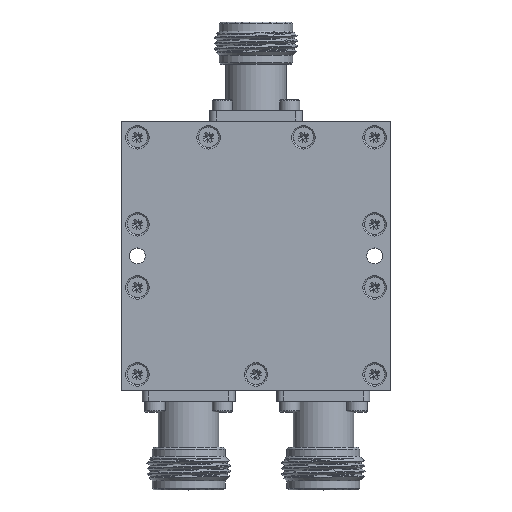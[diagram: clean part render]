
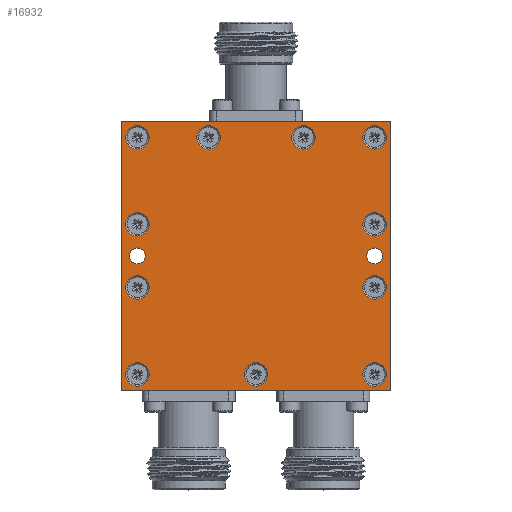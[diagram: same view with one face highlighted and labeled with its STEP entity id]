
A CAD part, top view. The second image highlights one B-rep face of the part: STEP entity #16932.
In plain terms, the highlighted planar face has unit normal (0, 0, 1).
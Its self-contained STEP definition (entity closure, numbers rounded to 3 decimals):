
#231=PLANE('',#17858);
#650=LINE('',#22159,#1800);
#653=LINE('',#22165,#1803);
#655=LINE('',#22185,#1805);
#656=LINE('',#22187,#1806);
#1800=VECTOR('',#18808,1000.);
#1803=VECTOR('',#18813,1000.);
#1805=VECTOR('',#18833,1000.);
#1806=VECTOR('',#18836,1000.);
#3957=ORIENTED_EDGE('',*,*,#6634,.F.);
#3958=ORIENTED_EDGE('',*,*,#6620,.F.);
#3959=ORIENTED_EDGE('',*,*,#6623,.F.);
#3960=ORIENTED_EDGE('',*,*,#6633,.F.);
#3961=ORIENTED_EDGE('',*,*,#6920,.T.);
#3962=ORIENTED_EDGE('',*,*,#6918,.T.);
#3963=ORIENTED_EDGE('',*,*,#6916,.T.);
#3964=ORIENTED_EDGE('',*,*,#6914,.T.);
#3965=ORIENTED_EDGE('',*,*,#6912,.T.);
#3966=ORIENTED_EDGE('',*,*,#6910,.T.);
#3967=ORIENTED_EDGE('',*,*,#6908,.T.);
#3968=ORIENTED_EDGE('',*,*,#6906,.T.);
#3969=ORIENTED_EDGE('',*,*,#6904,.T.);
#3970=ORIENTED_EDGE('',*,*,#6902,.T.);
#3971=ORIENTED_EDGE('',*,*,#6900,.T.);
#3972=ORIENTED_EDGE('',*,*,#6582,.F.);
#3973=ORIENTED_EDGE('',*,*,#6580,.F.);
#6580=EDGE_CURVE('',#8260,#8260,#9511,.T.);
#6582=EDGE_CURVE('',#8262,#8262,#9513,.T.);
#6620=EDGE_CURVE('',#8285,#8286,#650,.T.);
#6623=EDGE_CURVE('',#8287,#8285,#653,.T.);
#6633=EDGE_CURVE('',#8296,#8287,#655,.T.);
#6634=EDGE_CURVE('',#8286,#8296,#656,.T.);
#6900=EDGE_CURVE('',#8502,#8502,#9589,.T.);
#6902=EDGE_CURVE('',#8504,#8504,#9591,.T.);
#6904=EDGE_CURVE('',#8506,#8506,#9593,.T.);
#6906=EDGE_CURVE('',#8508,#8508,#9595,.T.);
#6908=EDGE_CURVE('',#8510,#8510,#9597,.T.);
#6910=EDGE_CURVE('',#8512,#8512,#9599,.T.);
#6912=EDGE_CURVE('',#8514,#8514,#9601,.T.);
#6914=EDGE_CURVE('',#8516,#8516,#9603,.T.);
#6916=EDGE_CURVE('',#8518,#8518,#9605,.T.);
#6918=EDGE_CURVE('',#8520,#8520,#9607,.T.);
#6920=EDGE_CURVE('',#8522,#8522,#9609,.T.);
#8260=VERTEX_POINT('',#22080);
#8262=VERTEX_POINT('',#22085);
#8285=VERTEX_POINT('',#22158);
#8286=VERTEX_POINT('',#22160);
#8287=VERTEX_POINT('',#22164);
#8296=VERTEX_POINT('',#22184);
#8502=VERTEX_POINT('',#23032);
#8504=VERTEX_POINT('',#23037);
#8506=VERTEX_POINT('',#23042);
#8508=VERTEX_POINT('',#23047);
#8510=VERTEX_POINT('',#23052);
#8512=VERTEX_POINT('',#23057);
#8514=VERTEX_POINT('',#23062);
#8516=VERTEX_POINT('',#23067);
#8518=VERTEX_POINT('',#23072);
#8520=VERTEX_POINT('',#23077);
#8522=VERTEX_POINT('',#23082);
#9511=CIRCLE('',#17575,1.5);
#9513=CIRCLE('',#17578,1.5);
#9589=CIRCLE('',#17827,2.2);
#9591=CIRCLE('',#17830,2.2);
#9593=CIRCLE('',#17833,2.2);
#9595=CIRCLE('',#17836,2.2);
#9597=CIRCLE('',#17839,2.2);
#9599=CIRCLE('',#17842,2.2);
#9601=CIRCLE('',#17845,2.2);
#9603=CIRCLE('',#17848,2.2);
#9605=CIRCLE('',#17851,2.2);
#9607=CIRCLE('',#17854,2.2);
#9609=CIRCLE('',#17857,2.2);
#10142=EDGE_LOOP('',(#3957,#3958,#3959,#3960));
#10143=EDGE_LOOP('',(#3961));
#10144=EDGE_LOOP('',(#3962));
#10145=EDGE_LOOP('',(#3963));
#10146=EDGE_LOOP('',(#3964));
#10147=EDGE_LOOP('',(#3965));
#10148=EDGE_LOOP('',(#3966));
#10149=EDGE_LOOP('',(#3967));
#10150=EDGE_LOOP('',(#3968));
#10151=EDGE_LOOP('',(#3969));
#10152=EDGE_LOOP('',(#3970));
#10153=EDGE_LOOP('',(#3971));
#10154=EDGE_LOOP('',(#3972));
#10155=EDGE_LOOP('',(#3973));
#11246=FACE_BOUND('',#10142,.T.);
#11247=FACE_BOUND('',#10143,.T.);
#11248=FACE_BOUND('',#10144,.T.);
#11249=FACE_BOUND('',#10145,.T.);
#11250=FACE_BOUND('',#10146,.T.);
#11251=FACE_BOUND('',#10147,.T.);
#11252=FACE_BOUND('',#10148,.T.);
#11253=FACE_BOUND('',#10149,.T.);
#11254=FACE_BOUND('',#10150,.T.);
#11255=FACE_BOUND('',#10151,.T.);
#11256=FACE_BOUND('',#10152,.T.);
#11257=FACE_BOUND('',#10153,.T.);
#11258=FACE_BOUND('',#10154,.T.);
#11259=FACE_BOUND('',#10155,.T.);
#16932=ADVANCED_FACE('',(#11246,#11247,#11248,#11249,#11250,#11251,#11252,
#11253,#11254,#11255,#11256,#11257,#11258,#11259),#231,.F.);
#17575=AXIS2_PLACEMENT_3D('',#22079,#18719,#18720);
#17578=AXIS2_PLACEMENT_3D('',#22084,#18725,#18726);
#17827=AXIS2_PLACEMENT_3D('',#23031,#19393,#19394);
#17830=AXIS2_PLACEMENT_3D('',#23036,#19399,#19400);
#17833=AXIS2_PLACEMENT_3D('',#23041,#19405,#19406);
#17836=AXIS2_PLACEMENT_3D('',#23046,#19411,#19412);
#17839=AXIS2_PLACEMENT_3D('',#23051,#19417,#19418);
#17842=AXIS2_PLACEMENT_3D('',#23056,#19423,#19424);
#17845=AXIS2_PLACEMENT_3D('',#23061,#19429,#19430);
#17848=AXIS2_PLACEMENT_3D('',#23066,#19435,#19436);
#17851=AXIS2_PLACEMENT_3D('',#23071,#19441,#19442);
#17854=AXIS2_PLACEMENT_3D('',#23076,#19447,#19448);
#17857=AXIS2_PLACEMENT_3D('',#23081,#19453,#19454);
#17858=AXIS2_PLACEMENT_3D('',#23083,#19455,#19456);
#18719=DIRECTION('',(0.,0.,1.));
#18720=DIRECTION('',(1.,0.,0.));
#18725=DIRECTION('',(0.,0.,1.));
#18726=DIRECTION('',(1.,0.,0.));
#18808=DIRECTION('',(1.,0.,0.));
#18813=DIRECTION('',(0.,1.,0.));
#18833=DIRECTION('',(-1.,0.,0.));
#18836=DIRECTION('',(0.,-1.,0.));
#19393=DIRECTION('',(0.,0.,-1.));
#19394=DIRECTION('',(0.,1.,0.));
#19399=DIRECTION('',(0.,0.,-1.));
#19400=DIRECTION('',(0.,1.,0.));
#19405=DIRECTION('',(0.,0.,-1.));
#19406=DIRECTION('',(0.,1.,0.));
#19411=DIRECTION('',(0.,0.,-1.));
#19412=DIRECTION('',(0.,1.,0.));
#19417=DIRECTION('',(0.,0.,-1.));
#19418=DIRECTION('',(0.,1.,0.));
#19423=DIRECTION('',(0.,0.,-1.));
#19424=DIRECTION('',(0.,1.,0.));
#19429=DIRECTION('',(0.,0.,-1.));
#19430=DIRECTION('',(0.,1.,0.));
#19435=DIRECTION('',(0.,0.,-1.));
#19436=DIRECTION('',(0.,1.,0.));
#19441=DIRECTION('',(0.,0.,-1.));
#19442=DIRECTION('',(0.,1.,0.));
#19447=DIRECTION('',(0.,0.,-1.));
#19448=DIRECTION('',(0.,1.,0.));
#19453=DIRECTION('',(0.,0.,-1.));
#19454=DIRECTION('',(0.,1.,0.));
#19455=DIRECTION('',(0.,0.,-1.));
#19456=DIRECTION('',(-1.,0.,0.));
#22079=CARTESIAN_POINT('',(22.4,0.,19.));
#22080=CARTESIAN_POINT('',(23.9,0.,19.));
#22084=CARTESIAN_POINT('',(-22.4,0.,19.));
#22085=CARTESIAN_POINT('',(-20.9,0.,19.));
#22158=CARTESIAN_POINT('',(-25.4,25.4,19.));
#22159=CARTESIAN_POINT('',(-25.4,25.4,19.));
#22160=CARTESIAN_POINT('',(25.4,25.4,19.));
#22164=CARTESIAN_POINT('',(-25.4,-25.4,19.));
#22165=CARTESIAN_POINT('',(-25.4,-25.4,19.));
#22184=CARTESIAN_POINT('',(25.4,-25.4,19.));
#22185=CARTESIAN_POINT('',(25.4,-25.4,19.));
#22187=CARTESIAN_POINT('',(25.4,25.4,19.));
#23031=CARTESIAN_POINT('',(-22.35,5.95,19.));
#23032=CARTESIAN_POINT('',(-22.35,8.15,19.));
#23036=CARTESIAN_POINT('',(-22.35,-5.95,19.));
#23037=CARTESIAN_POINT('',(-22.35,-3.75,19.));
#23041=CARTESIAN_POINT('',(-22.35,-22.35,19.));
#23042=CARTESIAN_POINT('',(-22.35,-20.15,19.));
#23046=CARTESIAN_POINT('',(0.,-22.35,19.));
#23047=CARTESIAN_POINT('',(0.,-20.15,19.));
#23051=CARTESIAN_POINT('',(22.35,-22.35,19.));
#23052=CARTESIAN_POINT('',(22.35,-20.15,19.));
#23056=CARTESIAN_POINT('',(22.35,-5.95,19.));
#23057=CARTESIAN_POINT('',(22.35,-3.75,19.));
#23061=CARTESIAN_POINT('',(22.35,5.95,19.));
#23062=CARTESIAN_POINT('',(22.35,8.15,19.));
#23066=CARTESIAN_POINT('',(22.35,22.35,19.));
#23067=CARTESIAN_POINT('',(22.35,24.55,19.));
#23071=CARTESIAN_POINT('',(8.95,22.35,19.));
#23072=CARTESIAN_POINT('',(8.95,24.55,19.));
#23076=CARTESIAN_POINT('',(-8.95,22.35,19.));
#23077=CARTESIAN_POINT('',(-8.95,24.55,19.));
#23081=CARTESIAN_POINT('',(-22.35,22.35,19.));
#23082=CARTESIAN_POINT('',(-22.35,24.55,19.));
#23083=CARTESIAN_POINT('',(25.4,-25.4,19.));
